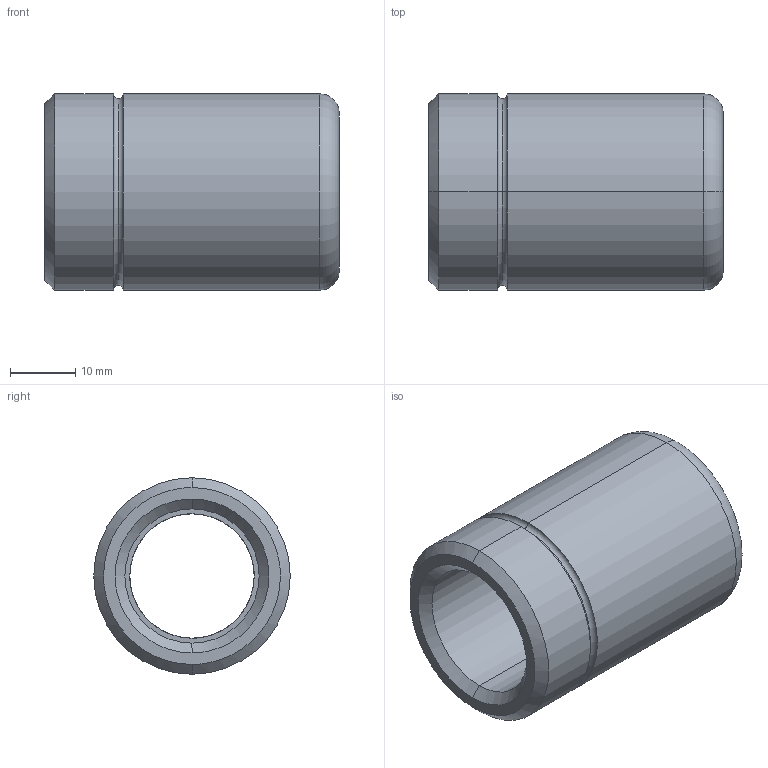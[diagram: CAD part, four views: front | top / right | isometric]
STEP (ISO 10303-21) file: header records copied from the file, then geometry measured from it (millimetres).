
FILE_DESCRIPTION(('CATIA V5 STEP Exchange'),'2;1');
FILE_NAME('C:\Users\Utente\Desktop\IO LAVORO\3D X SITO CF\X SITO\3D files 347\347-19 x 45.stp','2021-01-01T10:03:39+00:00',('none'),('none'),'CATIA Version 5 Release 20 GA (IN-10)','CATIA V5 STEP AP203','none');
FILE_SCHEMA(('CONFIG_CONTROL_DESIGN'));
Length unit declared in the file: millimetre
Products named in the file (1): 347-19 x 45
Bounding box: 45 x 30 x 30 mm (x, y, z)
Volume: 17633.2 mm3; surface area: 7763.4 mm2
Topology: 1 solids, 1 shells, 29 faces, 86 edges, 60 vertices
Faces by surface type: torus 12, cylinder 10, cone 4, plane 3
Entity records: 1154 total; most frequent: CARTESIAN_POINT 344, ORIENTED_EDGE 172, DIRECTION 132, AXIS2_PLACEMENT_3D 90, EDGE_CURVE 86, CIRCLE 60, VERTEX_POINT 60, EDGE_LOOP 32
